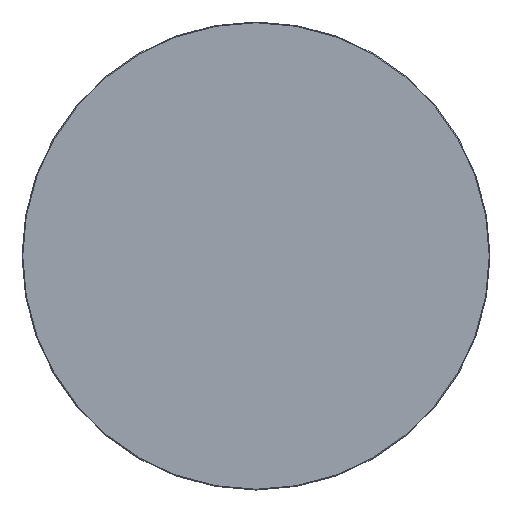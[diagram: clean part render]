
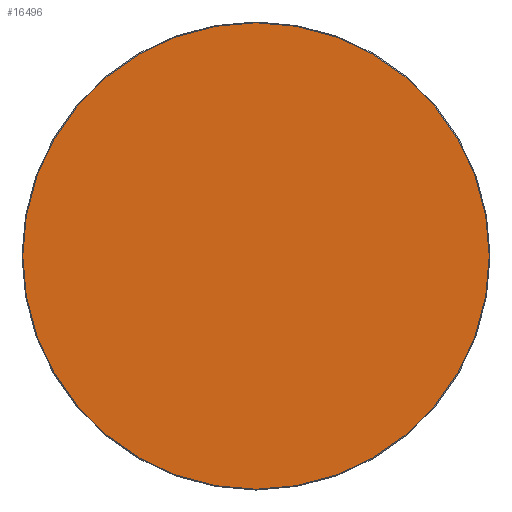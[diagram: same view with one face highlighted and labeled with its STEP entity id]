
A CAD part, top view. The second image highlights one B-rep face of the part: STEP entity #16496.
In plain terms, the highlighted planar face has unit normal (0, 0, 1).
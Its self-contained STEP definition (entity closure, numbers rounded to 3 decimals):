
#16421=CARTESIAN_POINT('',(0.,0.,20.));
#16422=DIRECTION('',(1.,0.,0.));
#16423=DIRECTION('',(0.,0.,1.));
#16424=AXIS2_PLACEMENT_3D('',#16421,#16423,#16422);
#16425=PLANE('',#16424);
#16426=CARTESIAN_POINT('',(-0.5,-448.5,20.));
#16427=VERTEX_POINT('',#16426);
#16428=CARTESIAN_POINT('',(0.5,-448.5,20.));
#16429=VERTEX_POINT('',#16428);
#16430=CARTESIAN_POINT('',(-0.5,-448.5,20.));
#16431=DIRECTION('',(1.,0.,0.));
#16432=VECTOR('',#16431,1.);
#16433=LINE('',#16430,#16432);
#16434=EDGE_CURVE('',#16427,#16429,#16433,.T.);
#16435=ORIENTED_EDGE('E105',*,*,#16434,.T.);
#16436=CARTESIAN_POINT('',(448.5,-0.5,20.));
#16437=VERTEX_POINT('',#16436);
#16438=CARTESIAN_POINT('',(0.5,-0.5,20.));
#16439=DIRECTION('',(0.,-1.,0.));
#16440=DIRECTION('',(0.,0.,1.));
#16441=AXIS2_PLACEMENT_3D('',#16438,#16440,#16439);
#16442=CIRCLE('',#16441,448.);
#16443=EDGE_CURVE('',#16429,#16437,#16442,.T.);
#16444=ORIENTED_EDGE('E107',*,*,#16443,.T.);
#16445=CARTESIAN_POINT('',(448.5,0.5,20.));
#16446=VERTEX_POINT('',#16445);
#16447=CARTESIAN_POINT('',(448.5,-0.5,20.));
#16448=DIRECTION('',(0.,1.,0.));
#16449=VECTOR('',#16448,1.);
#16450=LINE('',#16447,#16449);
#16451=EDGE_CURVE('',#16437,#16446,#16450,.T.);
#16452=ORIENTED_EDGE('E109',*,*,#16451,.T.);
#16453=CARTESIAN_POINT('',(0.5,448.5,20.));
#16454=VERTEX_POINT('',#16453);
#16455=CARTESIAN_POINT('',(0.5,0.5,20.));
#16456=DIRECTION('',(1.,0.,0.));
#16457=DIRECTION('',(0.,0.,1.));
#16458=AXIS2_PLACEMENT_3D('',#16455,#16457,#16456);
#16459=CIRCLE('',#16458,448.);
#16460=EDGE_CURVE('',#16446,#16454,#16459,.T.);
#16461=ORIENTED_EDGE('E111',*,*,#16460,.T.);
#16462=CARTESIAN_POINT('',(-0.5,448.5,20.));
#16463=VERTEX_POINT('',#16462);
#16464=CARTESIAN_POINT('',(0.5,448.5,20.));
#16465=DIRECTION('',(-1.,0.,0.));
#16466=VECTOR('',#16465,1.);
#16467=LINE('',#16464,#16466);
#16468=EDGE_CURVE('',#16454,#16463,#16467,.T.);
#16469=ORIENTED_EDGE('E113',*,*,#16468,.T.);
#16470=CARTESIAN_POINT('',(-448.5,0.5,20.));
#16471=VERTEX_POINT('',#16470);
#16472=CARTESIAN_POINT('',(-0.5,0.5,20.));
#16473=DIRECTION('',(0.,1.,0.));
#16474=DIRECTION('',(0.,0.,1.));
#16475=AXIS2_PLACEMENT_3D('',#16472,#16474,#16473);
#16476=CIRCLE('',#16475,448.);
#16477=EDGE_CURVE('',#16463,#16471,#16476,.T.);
#16478=ORIENTED_EDGE('E115',*,*,#16477,.T.);
#16479=CARTESIAN_POINT('',(-448.5,-0.5,20.));
#16480=VERTEX_POINT('',#16479);
#16481=CARTESIAN_POINT('',(-448.5,0.5,20.));
#16482=DIRECTION('',(0.,-1.,0.));
#16483=VECTOR('',#16482,1.);
#16484=LINE('',#16481,#16483);
#16485=EDGE_CURVE('',#16471,#16480,#16484,.T.);
#16486=ORIENTED_EDGE('E117',*,*,#16485,.T.);
#16487=CARTESIAN_POINT('',(-0.5,-0.5,20.));
#16488=DIRECTION('',(-1.,0.,0.));
#16489=DIRECTION('',(0.,0.,1.));
#16490=AXIS2_PLACEMENT_3D('',#16487,#16489,#16488);
#16491=CIRCLE('',#16490,448.);
#16492=EDGE_CURVE('',#16480,#16427,#16491,.T.);
#16493=ORIENTED_EDGE('E119',*,*,#16492,.T.);
#16494=EDGE_LOOP('',(#16435,#16444,#16452,#16461,#16469,#16478,#16486,#16493));
#16495=FACE_OUTER_BOUND('',#16494,.T.);
#16496=ADVANCED_FACE('F2',(#16495),#16425,.T.);
